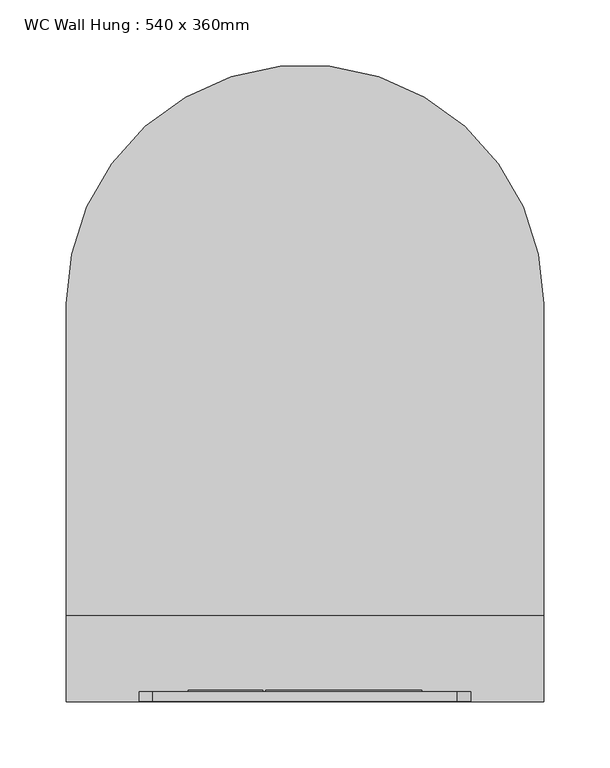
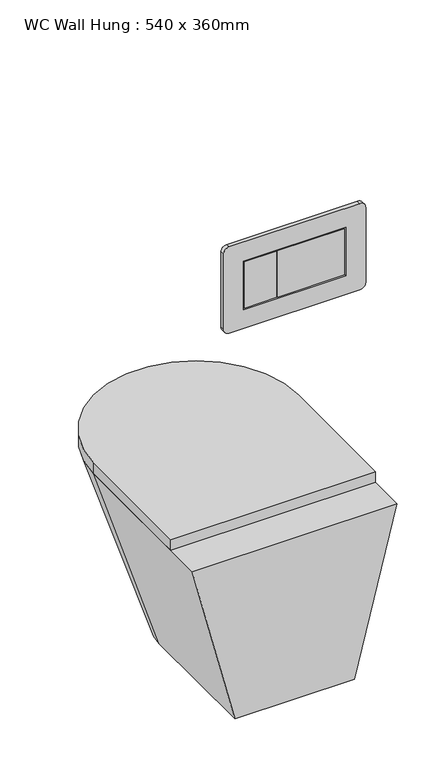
"""IFC4 building model written with IfcOpenShell, lengths in millimetres: flow terminal geometry, WC Wall Hung : 540 x 360mm."""

from ifc_helpers import new_model, si_unit, point, frame, frame_2d, origin, place, context, project, spatial, polyline, circle_curve, trimmed, segment, composite_curve, outline, extrude, source, transform, mapped, element, save
from ifc_brep_helpers import plane_surface, spline_surface, advanced_brep


def wc_wall_hung_540_x_360mm_e2c91401(model_context):
    return source(origin(), model_context, "Body", "SolidModel", [
        extrude(outline(polyline([(37.0, 100.0), (37.0, 108.5425872), (93.2461058, 108.5425872), (93.2461058, 100.0), (37.0, 100.0)])), frame((0.0, 0.0, 837.0), z_axis=(0.0, 0.0, 1.0), x_axis=(1.0, 0.0, 0.0)), (0.0, 0.0, 1.0), 86.0),
        extrude(outline(polyline([(95.2461058, 100.0), (95.2461058, 108.5425872), (213.0, 108.5425872), (213.0, 100.0), (95.2461058, 100.0)])), frame((0.0, 0.0, 837.0), z_axis=(0.0, 0.0, 1.0), x_axis=(1.0, 0.0, 0.0)), (0.0, 0.0, 1.0), 86.0),
        extrude(outline(composite_curve([segment(polyline([(960.0, 240.0), (960.0, 10.0)]), True, "CONTINUOUS"), segment(trimmed(circle_curve(frame_2d((950.0, 10.0)), 10.0), [point((960.0, 10.0))], [point((950.0, 0.0))], False, "CARTESIAN"), True, "CONTINUOUS"), segment(polyline([(950.0, 0.0), (810.0, 0.0)]), True, "CONTINUOUS"), segment(trimmed(circle_curve(frame_2d((810.0, 10.0)), 10.0), [point((810.0, 0.0))], [point((800.0, 10.0))], False, "CARTESIAN"), True, "CONTINUOUS"), segment(polyline([(800.0, 10.0), (800.0, 240.0)]), True, "CONTINUOUS"), segment(trimmed(circle_curve(frame_2d((810.0, 240.0)), 10.0), [point((800.0, 240.0))], [point((810.0, 250.0))], False, "CARTESIAN"), True, "CONTINUOUS"), segment(polyline([(810.0, 250.0), (950.0, 250.0)]), True, "CONTINUOUS"), segment(trimmed(circle_curve(frame_2d((950.0, 240.0)), 10.0), [point((950.0, 250.0))], [point((960.0, 240.0))], False, "CARTESIAN"), True, "CONTINUOUS")], self_intersect=False), holes=[polyline([(925.0, 215.0), (835.0, 215.0), (835.0, 35.0), (925.0, 35.0), (925.0, 215.0)])]), frame((0.0, 100.0, 0.0), z_axis=(0.0, 1.0, 0.0), x_axis=(0.0, 0.0, 1.0)), (0.0, 0.0, 1.0), 7.3251471),
        extrude(outline(composite_curve([segment(polyline([(305.0, 165.0), (-55.0, 165.0), (-55.0, 400.0)]), True, "CONTINUOUS"), segment(trimmed(circle_curve(frame_2d((125.0, 400.0)), 180.0), [point((-55.0, 400.0))], [point((305.0, 400.0))], False, "CARTESIAN"), True, "CONTINUOUS"), segment(polyline([(305.0, 400.0), (305.0, 165.0)]), True, "CONTINUOUS")], self_intersect=False)), frame((0.0, 0.0, 380.0), z_axis=(0.0, 0.0, 1.0), x_axis=(1.0, 0.0, 0.0)), (0.0, 0.0, 1.0), 20.0),
        advanced_brep(
        [(305.0, 100.0, 380.0), (305.0, 400.0, 380.0), (-55.0, 400.0, 380.0), (-55.0, 100.0, 380.0), (230.0, 100.0, 80.0), (20.0, 100.0, 80.0), (20.0, 330.0, 80.0), (230.0, 330.0, 80.0)],
        [
            (0, 1),
            (1, 2, circle_curve(frame((125.0, 400.0, 380.0), z_axis=(0.0, 0.0, 1.0), x_axis=(1.0, 0.0, 0.0)), 180.0)),
            (2, 3),
            (3, 0),
            (4, 5),
            (5, 6),
            (6, 7, circle_curve(frame((125.0, 330.0, 80.0), z_axis=(0.0, 0.0, -1.0), x_axis=(1.0, 0.0, 0.0)), 105.0)),
            (7, 4),
            (4, 0),
            (3, 5),
            (2, 6),
            (1, 7),
        ],
        [
            plane_surface(frame((125.0, 250.0, 380.0), z_axis=(0.0, 0.0, 1.0), x_axis=(-1.0, 0.0, 0.0))),
            plane_surface(frame((125.0, 215.0, 80.0), z_axis=(0.0, 0.0, -1.0), x_axis=(-1.0, 0.0, 0.0))),
            plane_surface(frame((125.0, 100.0, 80.0), z_axis=(0.0, -1.0, 0.0), x_axis=(-1.0, 0.0, 0.0))),
            plane_surface(frame((20.0, 215.0, 80.0), z_axis=(-0.9701425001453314, 0.0, -0.24253562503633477), x_axis=(0.0, 1.0, 0.0))),
            spline_surface(1, 2, [[(20.0, 330.0, 80.0), (20.0, 435.0, 80.0), (125.0, 435.0, 80.0), (230.0, 435.0, 80.0), (230.0, 330.0, 80.0)], [(-55.0, 400.0, 380.0), (-55.0, 580.0, 380.0), (125.0, 580.0, 380.0), (305.0, 580.0, 380.0), (305.0, 400.0, 380.0)]], [2, 2], [3, 2, 3], [0.0, 1.0], [0.0, 1.0, 2.0], weights=[[1.0, 0.7071067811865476, 1.0, 0.7071067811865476, 1.0], [1.0, 0.7071067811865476, 1.0, 0.7071067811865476, 1.0]]),
            plane_surface(frame((230.0, 215.0, 80.0), z_axis=(0.9701425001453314, 0.0, -0.24253562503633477), x_axis=(0.0, -1.0, 0.0))),
        ],
        [
            (0, [[1, 2, 3, 4]]),
            (1, [[5, 6, 7, 8]]),
            (2, [[9, -4, 10, -5]]),
            (3, [[-10, -3, 11, -6]]),
            (4, [[-11, -2, 12, -7]]),
            (5, [[-12, -1, -9, -8]]),
        ],
    ),
    ])


if __name__ == "__main__":
    model = new_model("IFC4")
    model_context = context("Model", 3, world=origin())
    ifc_project = project(units=[si_unit("LENGTHUNIT", "METRE", prefix="MILLI")], contexts=[model_context])
    site = spatial("IfcSite", under=ifc_project)
    building = spatial("IfcBuilding", under=site)
    placement = place(None, origin())
    wc_wall_hung_540_x_360mm_shape = wc_wall_hung_540_x_360mm_e2c91401(model_context)
    element("IfcFlowTerminal", 1, ObjectType="WC Wall Hung : 540 x 360mm", at=placement, inside=building, context=model_context, shape_type="MappedRepresentation", body=[
        mapped(wc_wall_hung_540_x_360mm_shape, transform((0.0, 0.0, 0.0), x_axis=(1.0, 0.0, 0.0), y_axis=(0.0, 1.0, 0.0), z_axis=(0.0, 0.0, 1.0))),
    ])
    save(model, "model.ifc")
